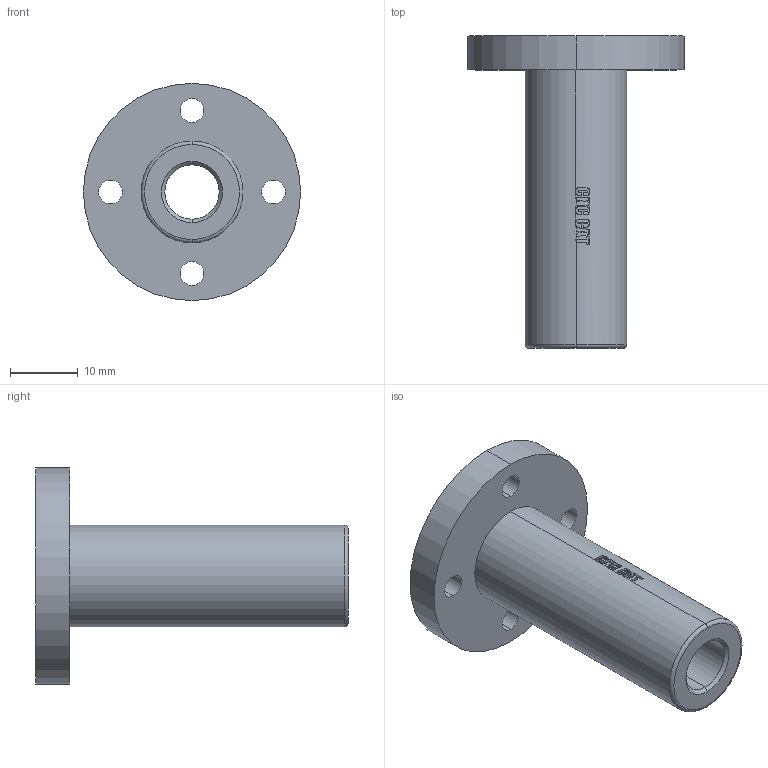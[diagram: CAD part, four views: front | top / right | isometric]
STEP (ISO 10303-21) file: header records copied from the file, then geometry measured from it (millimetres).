
FILE_DESCRIPTION (( 'STEP AP203' ), '1' );
FILE_NAME ('LMF8LUU.STEP', '2017-08-10T13:14:42', ( '' ), ( '' ), 'SwSTEP 2.0', 'SolidWorks 2017', '' );
FILE_SCHEMA (( 'CONFIG_CONTROL_DESIGN' ));
Length unit declared in the file: millimetre
Products named in the file (1): LMF8LUU
Bounding box: 32 x 46 x 32 mm (x, y, z)
Volume: 8752.9 mm3; surface area: 5239.4 mm2
Topology: 1 solids, 1 shells, 110 faces, 304 edges, 198 vertices
Faces by surface type: plane 48, bspline 32, cylinder 26, cone 2, torus 2
Entity records: 7288 total; most frequent: CARTESIAN_POINT 4652, ORIENTED_EDGE 608, DIRECTION 421, EDGE_CURVE 304, VERTEX_POINT 198, AXIS2_PLACEMENT_3D 165, B_SPLINE_CURVE_WITH_KNOTS 127, EDGE_LOOP 122
